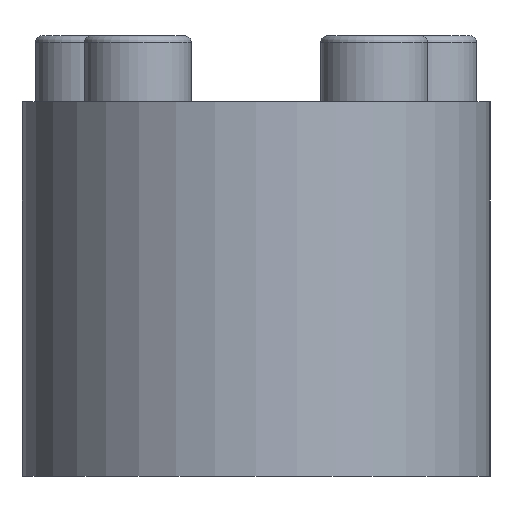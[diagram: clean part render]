
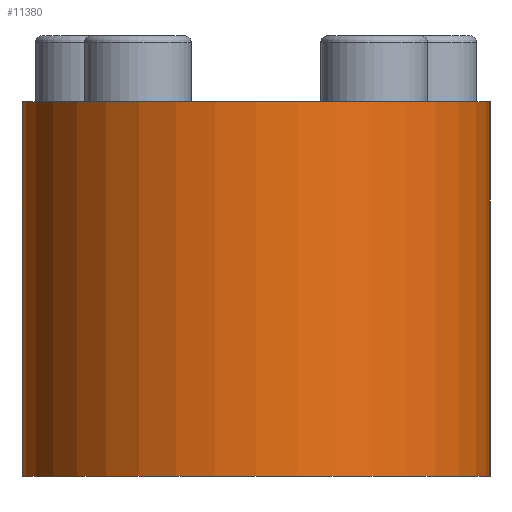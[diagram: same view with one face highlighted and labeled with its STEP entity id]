
A CAD part, left-side view. The second image highlights one B-rep face of the part: STEP entity #11380.
In plain terms, the highlighted cylindrical face has radius 35 mm (diameter 70 mm), a partial arc.
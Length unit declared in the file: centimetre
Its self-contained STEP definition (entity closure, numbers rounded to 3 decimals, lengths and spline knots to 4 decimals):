
#912=CYLINDRICAL_SURFACE('',#12024,3.5);
#1578=FACE_OUTER_BOUND('',#2218,.T.);
#2218=EDGE_LOOP('',(#7785,#7786,#7787,#7788));
#2977=LINE('',#14570,#3987);
#2978=LINE('',#14574,#3988);
#3987=VECTOR('',#12541,5.6);
#3988=VECTOR('',#12544,5.6);
#4997=CIRCLE('',#12025,3.5);
#4998=CIRCLE('',#12026,3.5);
#5073=VERTEX_POINT('',#14568);
#5074=VERTEX_POINT('',#14569);
#5075=VERTEX_POINT('',#14571);
#5076=VERTEX_POINT('',#14573);
#6169=EDGE_CURVE('',#5073,#5074,#2977,.T.);
#6170=EDGE_CURVE('',#5075,#5074,#4997,.T.);
#6171=EDGE_CURVE('',#5076,#5075,#2978,.T.);
#6172=EDGE_CURVE('',#5073,#5076,#4998,.T.);
#7785=ORIENTED_EDGE('',*,*,#6169,.T.);
#7786=ORIENTED_EDGE('',*,*,#6170,.F.);
#7787=ORIENTED_EDGE('',*,*,#6171,.F.);
#7788=ORIENTED_EDGE('',*,*,#6172,.F.);
#11380=ADVANCED_FACE('',(#1578),#912,.T.);
#12024=AXIS2_PLACEMENT_3D('',#14567,#12539,#12540);
#12025=AXIS2_PLACEMENT_3D('',#14572,#12542,#12543);
#12026=AXIS2_PLACEMENT_3D('',#14575,#12545,#12546);
#12539=DIRECTION('center_axis',(0.,0.,
-1.));
#12540=DIRECTION('ref_axis',(0.,1.,0.));
#12541=DIRECTION('',(0.,0.,1.));
#12542=DIRECTION('center_axis',(0.,0.,
1.));
#12543=DIRECTION('ref_axis',(0.,1.,0.));
#12544=DIRECTION('',(0.,0.,1.));
#12545=DIRECTION('center_axis',(0.,0.,-1.));
#12546=DIRECTION('ref_axis',(0.,-1.,0.));
#14567=CARTESIAN_POINT('Origin',(-18.3,0.,5.6));
#14568=CARTESIAN_POINT('',(-18.3,-3.5,0.));
#14569=CARTESIAN_POINT('',(-18.3,-3.5,5.6));
#14570=CARTESIAN_POINT('',(-18.3,-3.5,0.));
#14571=CARTESIAN_POINT('',(-18.3,3.5,5.6));
#14572=CARTESIAN_POINT('Origin',(-18.3,0.,5.6));
#14573=CARTESIAN_POINT('',(-18.3,3.5,0.));
#14574=CARTESIAN_POINT('',(-18.3,3.5,0.));
#14575=CARTESIAN_POINT('Origin',(-18.3,0.,0.));
